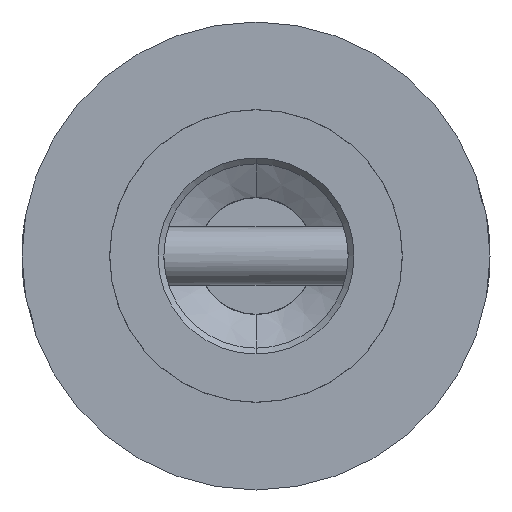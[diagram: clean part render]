
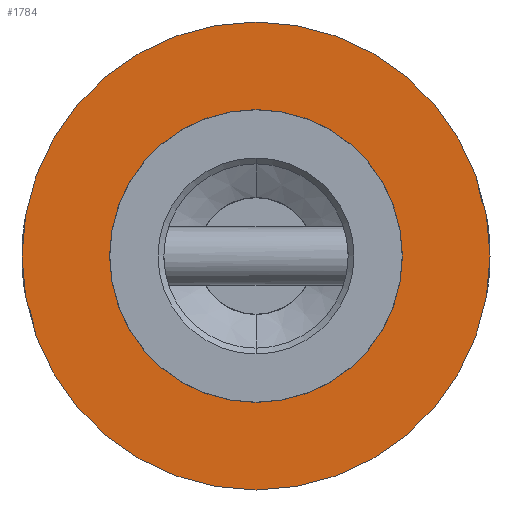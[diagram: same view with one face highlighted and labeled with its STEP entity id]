
A CAD part, front view. The second image highlights one B-rep face of the part: STEP entity #1784.
In plain terms, the highlighted planar face has unit normal (0, -1, 0).
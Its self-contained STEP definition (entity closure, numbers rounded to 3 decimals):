
#92 = VERTEX_POINT ( 'NONE', #1487 ) ;
#125 = CARTESIAN_POINT ( 'NONE',  ( 0., -400., -8. ) ) ;
#446 = VERTEX_POINT ( 'NONE', #1878 ) ;
#483 = EDGE_CURVE ( 'NONE', #771, #2758, #1355, .T. ) ;
#524 = EDGE_CURVE ( 'NONE', #446, #92, #3158, .T. ) ;
#601 = FACE_OUTER_BOUND ( 'NONE', #1274, .T. ) ;
#715 = CARTESIAN_POINT ( 'NONE',  ( 0., -400., 8. ) ) ;
#771 = VERTEX_POINT ( 'NONE', #715 ) ;
#776 = EDGE_LOOP ( 'NONE', ( #1242, #1779 ) ) ;
#869 = EDGE_CURVE ( 'NONE', #2758, #771, #1508, .T. ) ;
#933 = CIRCLE ( 'NONE', #1609, 5.005 ) ;
#983 = AXIS2_PLACEMENT_3D ( 'NONE', #1813, #1793, #1782 ) ;
#1039 = DIRECTION ( 'NONE',  ( 0., 0., -1. ) ) ;
#1093 = DIRECTION ( 'NONE',  ( 0., -1., 0. ) ) ;
#1143 = CARTESIAN_POINT ( 'NONE',  ( 0., -400., 0. ) ) ;
#1224 = EDGE_CURVE ( 'NONE', #92, #446, #933, .T. ) ;
#1242 = ORIENTED_EDGE ( 'NONE', *, *, #524, .F. ) ;
#1274 = EDGE_LOOP ( 'NONE', ( #3044, #1556 ) ) ;
#1285 = FACE_BOUND ( 'NONE', #776, .T. ) ;
#1295 = AXIS2_PLACEMENT_3D ( 'NONE', #1816, #1492, #1553 ) ;
#1355 = CIRCLE ( 'NONE', #983, 8. ) ;
#1487 = CARTESIAN_POINT ( 'NONE',  ( 0., -400., 5.005 ) ) ;
#1492 = DIRECTION ( 'NONE',  ( 0., -1., 0. ) ) ;
#1508 = CIRCLE ( 'NONE', #1800, 8. ) ;
#1510 = AXIS2_PLACEMENT_3D ( 'NONE', #1143, #1093, #1039 ) ;
#1553 = DIRECTION ( 'NONE',  ( 0., 0., -1. ) ) ;
#1556 = ORIENTED_EDGE ( 'NONE', *, *, #483, .T. ) ;
#1609 = AXIS2_PLACEMENT_3D ( 'NONE', #3302, #3288, #3273 ) ;
#1779 = ORIENTED_EDGE ( 'NONE', *, *, #1224, .F. ) ;
#1782 = DIRECTION ( 'NONE',  ( 0., 0., -1. ) ) ;
#1784 = ADVANCED_FACE ( 'NONE', ( #1285, #601 ), #2677, .T. ) ;
#1793 = DIRECTION ( 'NONE',  ( 0., -1., 0. ) ) ;
#1800 = AXIS2_PLACEMENT_3D ( 'NONE', #2615, #2868, #2373 ) ;
#1813 = CARTESIAN_POINT ( 'NONE',  ( 0., -400., 0. ) ) ;
#1816 = CARTESIAN_POINT ( 'NONE',  ( 0., -400., 0. ) ) ;
#1878 = CARTESIAN_POINT ( 'NONE',  ( 0., -400., -5.005 ) ) ;
#2373 = DIRECTION ( 'NONE',  ( 0., 0., -1. ) ) ;
#2615 = CARTESIAN_POINT ( 'NONE',  ( 0., -400., 0. ) ) ;
#2677 = PLANE ( 'NONE',  #1295 ) ;
#2758 = VERTEX_POINT ( 'NONE', #125 ) ;
#2868 = DIRECTION ( 'NONE',  ( 0., -1., 0. ) ) ;
#3044 = ORIENTED_EDGE ( 'NONE', *, *, #869, .T. ) ;
#3158 = CIRCLE ( 'NONE', #1510, 5.005 ) ;
#3273 = DIRECTION ( 'NONE',  ( 0., 0., -1. ) ) ;
#3288 = DIRECTION ( 'NONE',  ( 0., -1., 0. ) ) ;
#3302 = CARTESIAN_POINT ( 'NONE',  ( 0., -400., 0. ) ) ;
